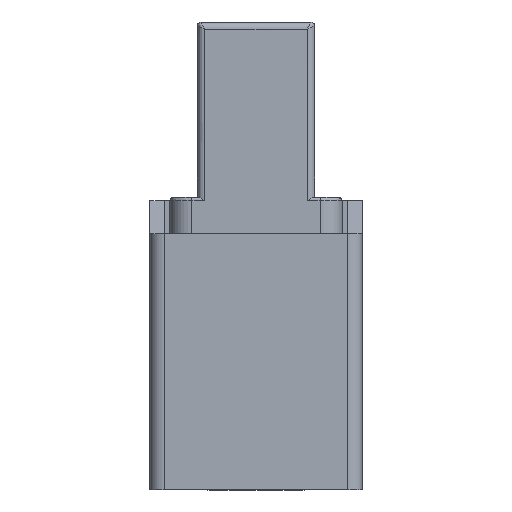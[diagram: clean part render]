
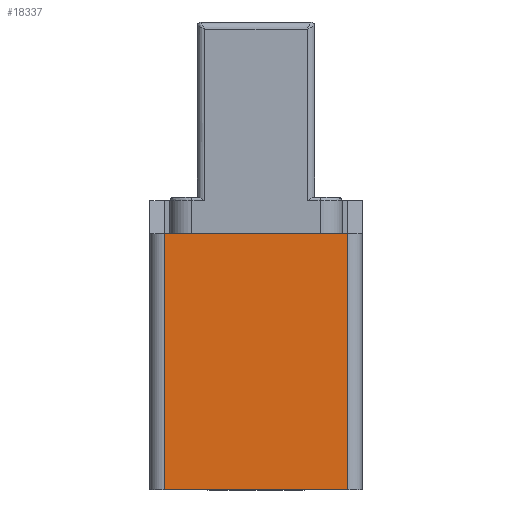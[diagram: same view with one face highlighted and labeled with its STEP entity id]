
A CAD part, left-side view. The second image highlights one B-rep face of the part: STEP entity #18337.
In plain terms, the highlighted planar face has unit normal (-1, 0, 0).
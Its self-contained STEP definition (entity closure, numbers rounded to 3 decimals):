
#327 = EDGE_CURVE ( 'NONE', #17329, #16084, #20701, .T. ) ;
#398 = EDGE_CURVE ( 'NONE', #9857, #16084, #7415, .T. ) ;
#1748 = CARTESIAN_POINT ( 'NONE',  ( 0., 27., -4.5 ) ) ;
#1984 = ORIENTED_EDGE ( 'NONE', *, *, #9760, .T. ) ;
#2001 = VECTOR ( 'NONE', #13794, 1000. ) ;
#3767 = LINE ( 'NONE', #4441, #15134 ) ;
#3784 = CARTESIAN_POINT ( 'NONE',  ( 0., 0., -39.5 ) ) ;
#4441 = CARTESIAN_POINT ( 'NONE',  ( 0., 2., -4.5 ) ) ;
#5836 = ORIENTED_EDGE ( 'NONE', *, *, #327, .T. ) ;
#6277 = DIRECTION ( 'NONE',  ( 0., 0., 1. ) ) ;
#7415 = LINE ( 'NONE', #3784, #2001 ) ;
#7859 = LINE ( 'NONE', #9477, #20578 ) ;
#7996 = AXIS2_PLACEMENT_3D ( 'NONE', #18751, #15698, #10426 ) ;
#8534 = DIRECTION ( 'NONE',  ( 0., 0., -1. ) ) ;
#8951 = VERTEX_POINT ( 'NONE', #10535 ) ;
#9477 = CARTESIAN_POINT ( 'NONE',  ( 0., 29., -4.5 ) ) ;
#9640 = CARTESIAN_POINT ( 'NONE',  ( 0., 27., -4.5 ) ) ;
#9681 = EDGE_LOOP ( 'NONE', ( #1984, #5836, #21497, #12717 ) ) ;
#9760 = EDGE_CURVE ( 'NONE', #8951, #17329, #7859, .T. ) ;
#9857 = VERTEX_POINT ( 'NONE', #13116 ) ;
#10426 = DIRECTION ( 'NONE',  ( 0., 0., -1. ) ) ;
#10535 = CARTESIAN_POINT ( 'NONE',  ( 0., 2., -4.5 ) ) ;
#12717 = ORIENTED_EDGE ( 'NONE', *, *, #17887, .T. ) ;
#13116 = CARTESIAN_POINT ( 'NONE',  ( 0., 2., -39.5 ) ) ;
#13794 = DIRECTION ( 'NONE',  ( 0., 1., 0. ) ) ;
#14130 = VECTOR ( 'NONE', #8534, 1000. ) ;
#15134 = VECTOR ( 'NONE', #6277, 1000. ) ;
#15698 = DIRECTION ( 'NONE',  ( 1., 0., 0. ) ) ;
#16084 = VERTEX_POINT ( 'NONE', #20736 ) ;
#17329 = VERTEX_POINT ( 'NONE', #9640 ) ;
#17887 = EDGE_CURVE ( 'NONE', #9857, #8951, #3767, .T. ) ;
#18337 = ADVANCED_FACE ( 'NONE', ( #18982 ), #20380, .F. ) ;
#18751 = CARTESIAN_POINT ( 'NONE',  ( 0., 0., -4.5 ) ) ;
#18982 = FACE_OUTER_BOUND ( 'NONE', #9681, .T. ) ;
#20380 = PLANE ( 'NONE',  #7996 ) ;
#20578 = VECTOR ( 'NONE', #20869, 1000. ) ;
#20701 = LINE ( 'NONE', #1748, #14130 ) ;
#20736 = CARTESIAN_POINT ( 'NONE',  ( 0., 27., -39.5 ) ) ;
#20869 = DIRECTION ( 'NONE',  ( 0., 1., 0. ) ) ;
#21497 = ORIENTED_EDGE ( 'NONE', *, *, #398, .F. ) ;
